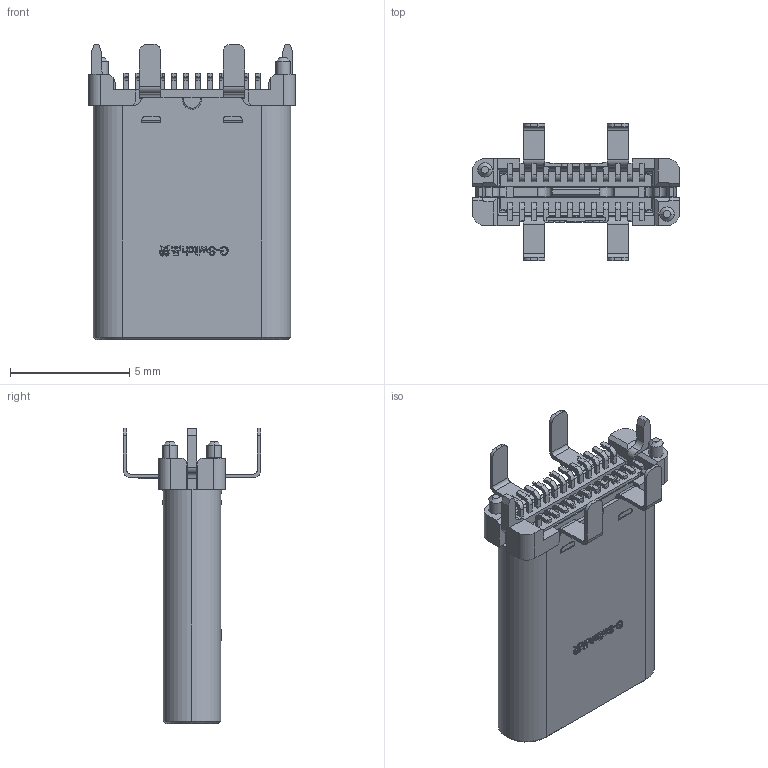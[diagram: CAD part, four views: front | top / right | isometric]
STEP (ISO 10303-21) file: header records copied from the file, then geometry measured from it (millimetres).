
FILE_DESCRIPTION (( 'STEP AP203' ), '1' );
FILE_NAME ('GT-USB-8018C.STEP', '2023-06-28T03:46:18', ( '' ), ( '' ), 'SwSTEP 2.0', 'SolidWorks 2023', '' );
FILE_SCHEMA (( 'CONFIG_CONTROL_DESIGN' ));
Length unit declared in the file: millimetre
Products named in the file (1): GT-USB-8018C
Bounding box: 8.66 x 5.75 x 12.36 mm (x, y, z)
Volume: 147.9 mm3; surface area: 1040.5 mm2
Topology: 1 solids, 1 shells, 2151 faces, 6659 edges, 4320 vertices
Faces by surface type: plane 1567, cylinder 477, bspline 81, cone 26
Entity records: 77721 total; most frequent: CARTESIAN_POINT 17915, ORIENTED_EDGE 13318, DIRECTION 11532, EDGE_CURVE 6659, LINE 5354, VECTOR 5354, VERTEX_POINT 4320, AXIS2_PLACEMENT_3D 3089
